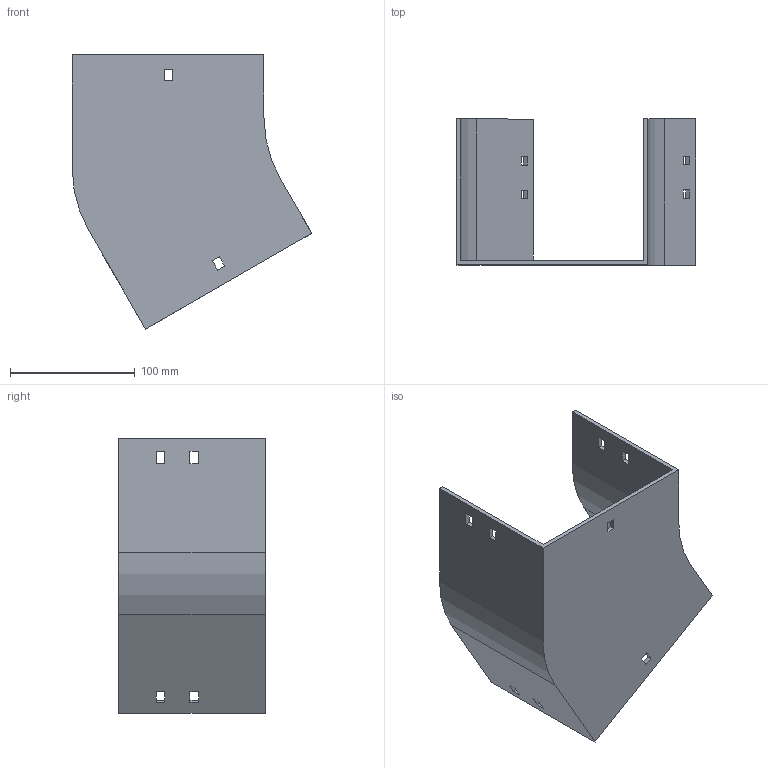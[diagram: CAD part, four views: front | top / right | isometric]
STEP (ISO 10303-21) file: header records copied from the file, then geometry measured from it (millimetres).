
FILE_DESCRIPTION (( 'STEP AP214' ), '1' );
FILE_NAME ('12B1J150.step', '2025-02-21T09:33:52', ( '' ), ( '' ), 'SwSTEP 2.0', 'SolidWorks 2023', '' );
FILE_SCHEMA (( 'AUTOMOTIVE_DESIGN' ));
Length unit declared in the file: millimetre
Products named in the file (1): 12B1J150
Bounding box: 192.4 x 117.5 x 220.3 mm (x, y, z)
Volume: 257168.8 mm3; surface area: 152152 mm2
Topology: 1 solids, 1 shells, 58 faces, 168 edges, 112 vertices
Faces by surface type: plane 54, cylinder 4
Entity records: 1943 total; most frequent: CARTESIAN_POINT 339, ORIENTED_EDGE 336, DIRECTION 294, EDGE_CURVE 168, VECTOR 160, LINE 160, VERTEX_POINT 112, EDGE_LOOP 78
